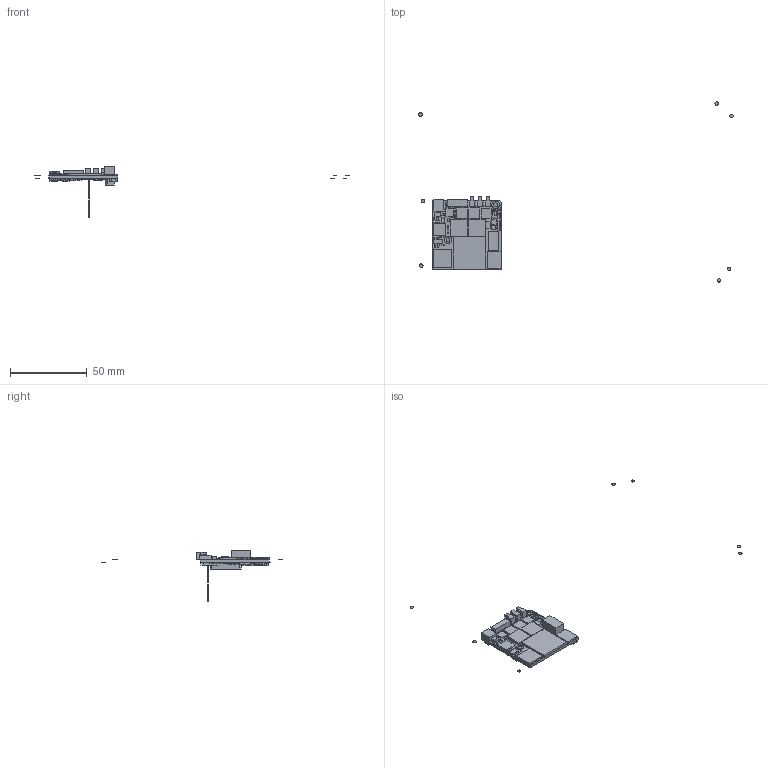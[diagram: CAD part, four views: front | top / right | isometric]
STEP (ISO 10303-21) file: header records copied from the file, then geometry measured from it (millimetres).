
FILE_DESCRIPTION(/* description */ ('PCB Design'),/* implementation_level */ '2;1');
FILE_NAME(/* name */ 'mLDVC_R2',/* time_stamp */ '2015-11-05T10:00:07+02:00',/* author */ ('xxxxx'),/* organization */ (''),/* preprocessor_version */ 'ST-DEVELOPER v15',/* originating_system */ 'allegro_16.6S050',/* authorisation */ '');
FILE_SCHEMA (('AUTOMOTIVE_DESIGN'));
Length unit declared in the file: millimetre
Products named in the file (53): MLDVC_R2; BOARD; COMPONENTS; FBGA216-P04; MX46765-0302; SOT1165-1; MICROFET-6; SOP-4; BGA624; MMCX7_RA_TH; QTH020-01-F-D-DP-A; LED0402; QFN40_6X6X1MM; DFN16; QFN32; H1102_XFMR16_SM; TDFN8; SIT8103_3P2X2P5; SOIC8; SOT353; C1206; ABM8G; QFN24_4X4MM_SLUG; FB0603; R0603; C0603; C0805; SC70-6; X32_3P2X2P5; USP-11B01; FH12-15S-0P5SH; 5041950870; BLM18A; M98P185; FID40; TP35RD; C0402; R0402; QFN48_7X7_05EP; LBGA100_1P0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
Assembly tree (743 placements, depth 3):
  MLDVC_R2
    BOARD
    COMPONENTS
      FBGA216-P04
      MX46765-0302
      SOT1165-1  x2
      MICROFET-6  x4
      SOP-4
      BGA624
      MMCX7_RA_TH  x3
      QTH020-01-F-D-DP-A
      LED0402  x6
      QFN40_6X6X1MM
      DFN16
      QFN32
      H1102_XFMR16_SM
      TDFN8  x2
      SIT8103_3P2X2P5  x2
      SOIC8  x3
      SOT353
      C1206
      ABM8G
      QFN24_4X4MM_SLUG
      FB0603  x13
      R0603  x2
      C0603  x53
      C0805  x9
      SC70-6
      X32_3P2X2P5  x2
      USP-11B01  x3
      FH12-15S-0P5SH
      5041950870
      BLM18A
      M98P185  x2
      FID40  x13
      TP35RD  x10
      C0402  x72
      R0402  x101
      QFN48_7X7_05EP  x2
      LBGA100_1P0  x2
      LQH32C51
      SOD882
      DBV5
      SC6
      SOT1156-1
      L0402  x2
      MBGA164
      VFBGA_63_H4
      SOT23-5
      C0201_S  x201
      C0201  x49
      R0201_S  x54
      R0201  x104
Bounding box: 204.98 x 117.6 x 33.17 mm (x, y, z)
Surface area: 12871.5 mm2 (no closed solid volume)
Topology: 0 solids, 743 shells, 4478 faces, 9738 edges, 5984 vertices
Faces by surface type: plane 4385, cylinder 93
Entity records: 17198 total; most frequent: DIRECTION 2465, AXIS2_PLACEMENT_3D 1952, ORIENTED_EDGE 1584, CARTESIAN_POINT 1559, EDGE_CURVE 863, PRODUCT_DEFINITION_SHAPE 796, VECTOR 765, LINE 765
